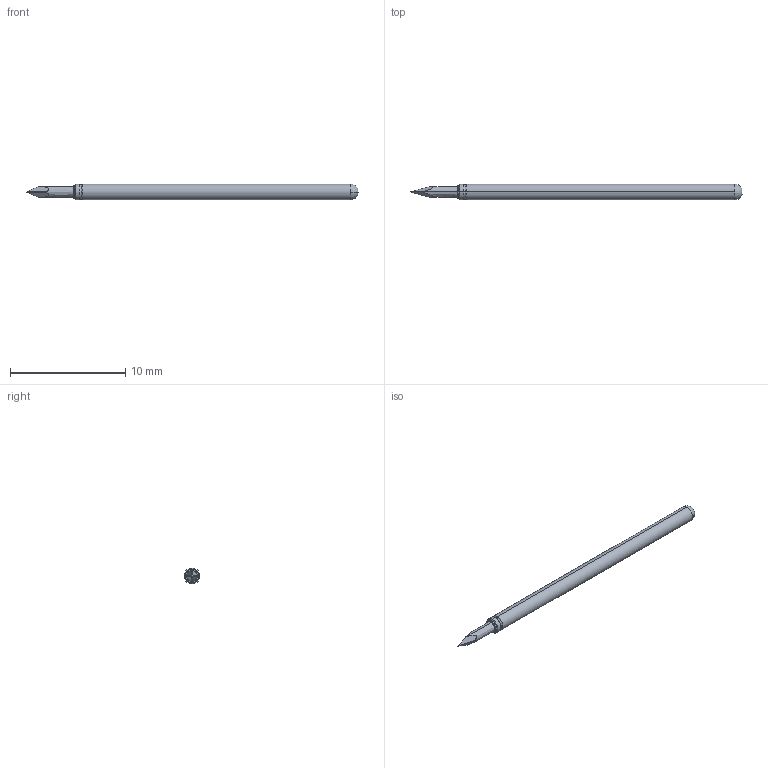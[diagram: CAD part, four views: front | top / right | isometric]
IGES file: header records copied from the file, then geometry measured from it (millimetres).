
Start section: SolidWorks IGES file using analytic representation for surfaces
Global section: file name: Z:\probe solid model mockups\Solidworks models\POGO-25 IGS files\POGO-25I35 RECD.IGS; native system: SolidWorks 2006 by SolidWorks Corporation; preprocessor: SolidWorks 2006 by SolidWorks Corporation; author: tsakatani; date: 071214.092442; units: inch
Bounding box: 28.78 x 1.37 x 1.37 mm (x, y, z)
Surface area: 116.9 mm2 (no closed solid volume)
Topology: 0 solids, 0 shells, 22 faces, 166 edges, 166 vertices
Faces by surface type: revolution 12, bspline 10
